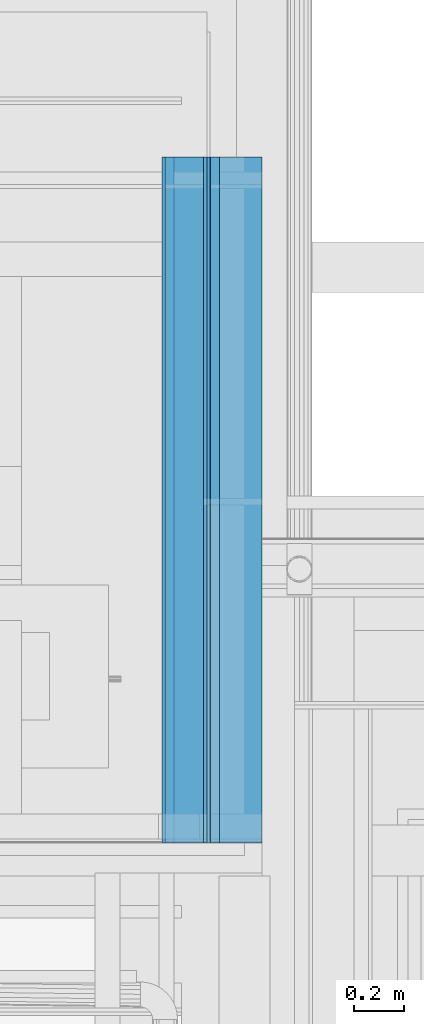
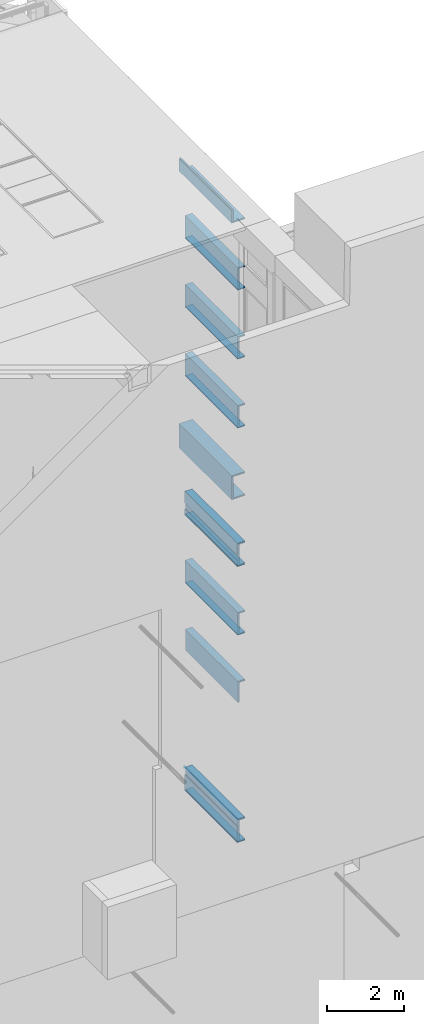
# One storey, part 55 of 583: 59 building element parts, 25 elements without a shape of their own.
"""IFC2X3 building model written with IfcOpenShell, lengths in metres."""

from ifc_helpers import new_model, entity, si_unit, converted_unit, derived_unit, money_unit, direction, frame, frame_2d, origin_with_axes, place, context, subcontext, project, spatial, polyline, rectangle, outline, extrude, material, type_object, element, aggregate, save


model = new_model("IFC2X3")

# Units and contexts
model_context = context("Model", 3, precision=1e-05, world=origin_with_axes(), true_north=direction((0.0, 1.0)))
body_context = subcontext(model_context, "Body", "Model", "MODEL_VIEW", scale=1.0)
ifc_project = project(units=[si_unit("LENGTHUNIT", "METRE"), si_unit("AREAUNIT", "SQUARE_METRE"), si_unit("VOLUMEUNIT", "CUBIC_METRE"), si_unit("ABSORBEDDOSEUNIT", "GRAY"), si_unit("AMOUNTOFSUBSTANCEUNIT", "MOLE"), si_unit("DOSEEQUIVALENTUNIT", "SIEVERT"), si_unit("ELECTRICCAPACITANCEUNIT", "FARAD"), si_unit("ELECTRICCHARGEUNIT", "COULOMB"), si_unit("ELECTRICCONDUCTANCEUNIT", "SIEMENS"), si_unit("ELECTRICCURRENTUNIT", "AMPERE"), si_unit("ELECTRICRESISTANCEUNIT", "OHM"), si_unit("ELECTRICVOLTAGEUNIT", "VOLT"), si_unit("ENERGYUNIT", "JOULE"), si_unit("FORCEUNIT", "NEWTON"), si_unit("FREQUENCYUNIT", "HERTZ"), si_unit("ILLUMINANCEUNIT", "LUX"), si_unit("INDUCTANCEUNIT", "HENRY"), si_unit("LUMINOUSFLUXUNIT", "LUMEN"), si_unit("LUMINOUSINTENSITYUNIT", "CANDELA"), si_unit("MAGNETICFLUXDENSITYUNIT", "TESLA"), si_unit("MAGNETICFLUXUNIT", "WEBER"), si_unit("MASSUNIT", "GRAM"), converted_unit("PLANEANGLEUNIT", "degree", entity("IfcReal", 0.0174532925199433), si_unit("PLANEANGLEUNIT", "RADIAN"), dimensions=[0, 0, 0, 0, 0, 0, 0]), si_unit("POWERUNIT", "WATT"), si_unit("PRESSUREUNIT", "PASCAL"), si_unit("RADIOACTIVITYUNIT", "BECQUEREL"), si_unit("SOLIDANGLEUNIT", "STERADIAN"), si_unit("THERMODYNAMICTEMPERATUREUNIT", "KELVIN"), si_unit("TIMEUNIT", "SECOND"), derived_unit("ACCELERATIONUNIT", [(si_unit("LENGTHUNIT", "METRE"), 1), (si_unit("TIMEUNIT", "SECOND"), -2)]), derived_unit("ANGULARVELOCITYUNIT", [(converted_unit("PLANEANGLEUNIT", "degree", entity("IfcReal", 0.0174532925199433), si_unit("PLANEANGLEUNIT", "RADIAN"), dimensions=[0, 0, 0, 0, 0, 0, 0]), 1), (si_unit("TIMEUNIT", "SECOND"), -1)]), derived_unit("CURVATUREUNIT", [(converted_unit("PLANEANGLEUNIT", "degree", entity("IfcReal", 0.0174532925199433), si_unit("PLANEANGLEUNIT", "RADIAN"), dimensions=[0, 0, 0, 0, 0, 0, 0]), 1), (si_unit("LENGTHUNIT", "METRE"), -1)]), derived_unit("DYNAMICVISCOSITYUNIT", [(si_unit("PRESSUREUNIT", "PASCAL"), 1), (si_unit("TIMEUNIT", "SECOND"), 1)]), derived_unit("HEATFLUXDENSITYUNIT", [(si_unit("POWERUNIT", "WATT"), 1), (si_unit("LENGTHUNIT", "METRE"), -2)]), derived_unit("HEATINGVALUEUNIT", [(si_unit("ENERGYUNIT", "JOULE"), 1), (si_unit("MASSUNIT", "GRAM"), -1)]), derived_unit("INTEGERCOUNTRATEUNIT", [(si_unit("TIMEUNIT", "SECOND"), -1)]), derived_unit("IONCONCENTRATIONUNIT", [(si_unit("MASSUNIT", "GRAM"), 1), (si_unit("VOLUMEUNIT", "CUBIC_METRE"), -1)]), derived_unit("ISOTHERMALMOISTURECAPACITYUNIT", [(si_unit("VOLUMEUNIT", "CUBIC_METRE"), 1), (si_unit("MASSUNIT", "GRAM"), -1)]), derived_unit("KINEMATICVISCOSITYUNIT", [(si_unit("AREAUNIT", "SQUARE_METRE"), 1), (si_unit("TIMEUNIT", "SECOND"), -1)]), derived_unit("LINEARFORCEUNIT", [(si_unit("FORCEUNIT", "NEWTON"), 1), (si_unit("LENGTHUNIT", "METRE"), -1)]), derived_unit("LINEARMOMENTUNIT", [(si_unit("FORCEUNIT", "NEWTON"), 1), (si_unit("LENGTHUNIT", "METRE"), -1)]), derived_unit("LINEARSTIFFNESSUNIT", [(si_unit("FORCEUNIT", "NEWTON"), 1), (si_unit("LENGTHUNIT", "METRE"), -1)]), derived_unit("LINEARVELOCITYUNIT", [(si_unit("LENGTHUNIT", "METRE"), 1), (si_unit("TIMEUNIT", "SECOND"), -1)]), derived_unit("LUMINOUSINTENSITYDISTRIBUTIONUNIT", [(si_unit("LUMINOUSINTENSITYUNIT", "CANDELA"), 1), (si_unit("LUMINOUSFLUXUNIT", "LUMEN"), -1)]), derived_unit("MASSDENSITYUNIT", [(si_unit("MASSUNIT", "GRAM"), 1), (si_unit("VOLUMEUNIT", "CUBIC_METRE"), -1)]), derived_unit("MASSFLOWRATEUNIT", [(si_unit("MASSUNIT", "GRAM"), 1), (si_unit("TIMEUNIT", "SECOND"), -1)]), derived_unit("MASSPERLENGTHUNIT", [(si_unit("MASSUNIT", "GRAM"), 1), (si_unit("LENGTHUNIT", "METRE"), -1)]), derived_unit("MODULUSOFELASTICITYUNIT", [(si_unit("FORCEUNIT", "NEWTON"), 1), (si_unit("AREAUNIT", "SQUARE_METRE"), -1)]), derived_unit("MODULUSOFLINEARSUBGRADEREACTIONUNIT", [(si_unit("FORCEUNIT", "NEWTON"), 1), (si_unit("LENGTHUNIT", "METRE"), -2)]), derived_unit("MODULUSOFROTATIONALSUBGRADEREACTIONUNIT", [(si_unit("FORCEUNIT", "NEWTON"), 1), (si_unit("LENGTHUNIT", "METRE"), 1)]), derived_unit("MODULUSOFSUBGRADEREACTIONUNIT", [(si_unit("FORCEUNIT", "NEWTON"), 1), (si_unit("VOLUMEUNIT", "CUBIC_METRE"), -1)]), derived_unit("MOISTUREDIFFUSIVITYUNIT", [(si_unit("VOLUMEUNIT", "CUBIC_METRE"), 1), (si_unit("TIMEUNIT", "SECOND"), -1)]), derived_unit("MOLECULARWEIGHTUNIT", [(si_unit("MASSUNIT", "GRAM"), 1), (si_unit("AMOUNTOFSUBSTANCEUNIT", "MOLE"), -1)]), derived_unit("PLANARFORCEUNIT", [(si_unit("FORCEUNIT", "NEWTON"), 1), (si_unit("LENGTHUNIT", "METRE"), -2)]), derived_unit("ROTATIONALFREQUENCYUNIT", [(si_unit("TIMEUNIT", "SECOND"), -1)]), derived_unit("ROTATIONALMASSUNIT", [(si_unit("MASSUNIT", "GRAM"), 1), (si_unit("LENGTHUNIT", "METRE"), 2)]), derived_unit("ROTATIONALSTIFFNESSUNIT", [(si_unit("FORCEUNIT", "NEWTON"), 1), (si_unit("LENGTHUNIT", "METRE"), 1), (converted_unit("PLANEANGLEUNIT", "degree", entity("IfcReal", 0.0174532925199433), si_unit("PLANEANGLEUNIT", "RADIAN"), dimensions=[0, 0, 0, 0, 0, 0, 0]), -1)]), derived_unit("SECTIONAREAINTEGRALUNIT", [(si_unit("LENGTHUNIT", "METRE"), 5)]), derived_unit("SECTIONMODULUSUNIT", [(si_unit("LENGTHUNIT", "METRE"), 3)]), derived_unit("SHEARMODULUSUNIT", [(si_unit("FORCEUNIT", "NEWTON"), 1), (si_unit("AREAUNIT", "SQUARE_METRE"), -1)]), derived_unit("SOUNDPOWERUNIT", [(si_unit("ENERGYUNIT", "JOULE"), 1), (si_unit("TIMEUNIT", "SECOND"), -1)]), derived_unit("SPECIFICHEATCAPACITYUNIT", [(si_unit("FORCEUNIT", "NEWTON"), 1), (si_unit("MASSUNIT", "GRAM"), -1), (si_unit("THERMODYNAMICTEMPERATUREUNIT", "KELVIN"), -1)]), derived_unit("TEMPERATUREGRADIENTUNIT", [(si_unit("THERMODYNAMICTEMPERATUREUNIT", "KELVIN"), 1), (si_unit("LENGTHUNIT", "METRE"), -1)]), derived_unit("THERMALADMITTANCEUNIT", [(si_unit("POWERUNIT", "WATT"), 1), (si_unit("AREAUNIT", "SQUARE_METRE"), -1), (si_unit("THERMODYNAMICTEMPERATUREUNIT", "KELVIN"), -1)]), derived_unit("THERMALCONDUCTANCEUNIT", [(si_unit("POWERUNIT", "WATT"), 1), (si_unit("LENGTHUNIT", "METRE"), -1), (si_unit("THERMODYNAMICTEMPERATUREUNIT", "KELVIN"), -1)]), derived_unit("THERMALEXPANSIONCOEFFICIENTUNIT", [(si_unit("THERMODYNAMICTEMPERATUREUNIT", "KELVIN"), -1)]), derived_unit("THERMALRESISTANCEUNIT", [(si_unit("AREAUNIT", "SQUARE_METRE"), 1), (si_unit("POWERUNIT", "WATT"), -1)]), derived_unit("THERMALTRANSMITTANCEUNIT", [(si_unit("POWERUNIT", "WATT"), 1), (si_unit("AREAUNIT", "SQUARE_METRE"), -1), (si_unit("THERMODYNAMICTEMPERATUREUNIT", "KELVIN"), -1)]), derived_unit("TORQUEUNIT", [(si_unit("FORCEUNIT", "NEWTON"), 1), (si_unit("LENGTHUNIT", "METRE"), 1)]), derived_unit("VAPORPERMEABILITYUNIT", [(si_unit("MASSUNIT", "GRAM"), 1), (si_unit("TIMEUNIT", "SECOND"), -1)]), derived_unit("VOLUMETRICFLOWRATEUNIT", [(si_unit("VOLUMEUNIT", "CUBIC_METRE"), 1), (si_unit("TIMEUNIT", "SECOND"), -1)]), derived_unit("WARPINGCONSTANTUNIT", [(si_unit("LENGTHUNIT", "METRE"), 6)]), derived_unit("WARPINGMOMENTUNIT", [(si_unit("FORCEUNIT", "NEWTON"), 1), (si_unit("LENGTHUNIT", "METRE"), 2)]), money_unit("GBP")], contexts=[model_context])

# Site, building, storey
site_placement = place(None, origin_with_axes())
site = spatial("IfcSite", under=ifc_project, at=site_placement, Name="Site", CompositionType="ELEMENT")
building_placement = place(site_placement, origin_with_axes())
building = spatial("IfcBuilding", under=site, at=building_placement, Name="Building01", CompositionType="ELEMENT")
storey_placement = place(building_placement, frame((0.0, 0.0, 20.78), z_axis=(0.0, 0.0, 1.0), x_axis=(1.0, 0.0, 0.0)))
storey = spatial("IfcBuildingStorey", under=building, at=storey_placement, Name="RL", CompositionType="ELEMENT", Elevation=20.78)

# Wall, building element parts
wall_type_1 = type_object("IfcWallType", Name="SHE_A-Walls_Type06f_ExternalWallInsulation_48+15mm", PredefinedType="NOTDEFINED")
wall_1_placement = place(storey_placement, frame((14.8, 5.15, -4.755), z_axis=(0.0, 1.0, 0.0), x_axis=(-1.0, 0.0, 0.0)))
wall_1 = element("IfcWall", 1, at=wall_1_placement, inside=storey, type_object=wall_type_1, Name="6F", ObjectType="SHE_A-Walls_Type06f_ExternalWallInsulation_48+15mm")
ifc_material_1 = material(Name="A_BSUK_Insulation")
placement_1 = place(wall_1_placement, origin_with_axes())
building_element_part_1 = element("IfcBuildingElementPart", 2, at=placement_1, material=ifc_material_1, Name="1", context=body_context, shape_type="SweptSolid", body=[
    extrude(outline(polyline([(0.206, 0.018), (0.0, 0.018), (0.0, -0.018), (0.17, -0.018), (0.206, 0.018)])), origin_with_axes(), (0.0, 0.0, 1.0), 2.74),
])
ifc_material_2 = material(Name="A_BSUK_WallInternal_Finishes_Plasterboard")
building_element_part_2 = element("IfcBuildingElementPart", 3, at=placement_1, material=ifc_material_2, Name="3", context=body_context, shape_type="SweptSolid", body=[
    extrude(outline(polyline([(0.233, 0.045), (0.0, 0.045), (0.0, 0.03), (0.218, 0.03), (0.233, 0.045)])), origin_with_axes(), (0.0, 0.0, 1.0), 2.74),
])
building_element_part_3 = element("IfcBuildingElementPart", 4, at=placement_1, material=ifc_material_2, Name="4", context=body_context, shape_type="SweptSolid", body=[
    extrude(outline(polyline([(0.218, 0.03), (0.0, 0.03), (0.0, 0.018), (0.206, 0.018), (0.218, 0.03)])), origin_with_axes(), (0.0, 0.0, 1.0), 2.74),
])
aggregate(wall_1, [building_element_part_1, building_element_part_2, building_element_part_3])

wall_2_placement = place(storey_placement, frame((14.612, 5.15, -5.415), z_axis=(0.0, 1.0, 0.0), x_axis=(1.0, 0.0, 0.0)))
wall_2 = element("IfcWall", 5, at=wall_2_placement, inside=storey, type_object=wall_type_1, Name="6F", ObjectType="SHE_A-Walls_Type06f_ExternalWallInsulation_48+15mm")
placement_2 = place(wall_2_placement, origin_with_axes())
building_element_part_4 = element("IfcBuildingElementPart", 6, at=placement_2, material=ifc_material_1, Name="1", context=body_context, shape_type="SweptSolid", body=[
    extrude(outline(polyline([(-0.018, 0.018), (0.018, -0.018), (0.188, -0.018), (0.188, 0.018), (-0.018, 0.018)])), origin_with_axes(), (0.0, 0.0, 1.0), 2.74),
])
building_element_part_5 = element("IfcBuildingElementPart", 7, at=placement_2, material=ifc_material_2, Name="3", context=body_context, shape_type="SweptSolid", body=[
    extrude(outline(polyline([(-0.045, 0.045), (-0.03, 0.03), (0.188, 0.03), (0.188, 0.045), (-0.045, 0.045)])), origin_with_axes(), (0.0, 0.0, 1.0), 2.74),
])
building_element_part_6 = element("IfcBuildingElementPart", 8, at=placement_2, material=ifc_material_2, Name="4", context=body_context, shape_type="SweptSolid", body=[
    extrude(outline(polyline([(-0.03, 0.03), (-0.018, 0.018), (0.188, 0.018), (0.188, 0.03), (-0.03, 0.03)])), origin_with_axes(), (0.0, 0.0, 1.0), 2.74),
])
aggregate(wall_2, [building_element_part_4, building_element_part_5, building_element_part_6])

wall_3_placement = place(storey_placement, frame((14.612, 5.15, -4.755), z_axis=(0.0, 1.0, 0.0), x_axis=(0.0, 0.0, -1.0)))
wall_3 = element("IfcWall", 9, at=wall_3_placement, inside=storey, type_object=wall_type_1, Name="6F", ObjectType="SHE_A-Walls_Type06f_ExternalWallInsulation_48+15mm")
placement_3 = place(wall_3_placement, origin_with_axes())
building_element_part_7 = element("IfcBuildingElementPart", 10, at=placement_3, material=ifc_material_1, Name="1", context=body_context, shape_type="SweptSolid", body=[
    extrude(outline(polyline([(0.678, 0.018), (-0.018, 0.018), (0.018, -0.018), (0.642, -0.018), (0.678, 0.018)])), origin_with_axes(), (0.0, 0.0, 1.0), 2.74),
])
building_element_part_8 = element("IfcBuildingElementPart", 11, at=placement_3, material=ifc_material_2, Name="3", context=body_context, shape_type="SweptSolid", body=[
    extrude(outline(polyline([(-0.045, 0.045), (-0.03, 0.03), (0.331868, 0.03), (0.331868, 0.045), (-0.045, 0.045)])), origin_with_axes(), (0.0, 0.0, 1.0), 2.74),
])
building_element_part_9 = element("IfcBuildingElementPart", 12, at=placement_3, material=ifc_material_2, Name="5", context=body_context, shape_type="SweptSolid", body=[
    extrude(outline(polyline([(0.705, 0.045), (0.526868, 0.045), (0.526868, 0.03), (0.69, 0.03), (0.705, 0.045)])), origin_with_axes(), (0.0, 0.0, 1.0), 2.74),
])
building_element_part_10 = element("IfcBuildingElementPart", 13, at=placement_3, material=ifc_material_2, Name="6", context=body_context, shape_type="SweptSolid", body=[
    extrude(outline(polyline([(-0.03, 0.03), (-0.018, 0.018), (0.346868, 0.018), (0.346868, 0.03), (-0.03, 0.03)])), origin_with_axes(), (0.0, 0.0, 1.0), 2.74),
])
building_element_part_11 = element("IfcBuildingElementPart", 14, at=placement_3, material=ifc_material_2, Name="7", context=body_context, shape_type="SweptSolid", body=[
    extrude(outline(polyline([(0.69, 0.03), (0.511868, 0.03), (0.511868, 0.018), (0.678, 0.018), (0.69, 0.03)])), origin_with_axes(), (0.0, 0.0, 1.0), 2.74),
])
aggregate(wall_3, [building_element_part_7, building_element_part_8, building_element_part_9, building_element_part_10, building_element_part_11])

wall_4_placement = place(storey_placement, frame((14.8, 5.15, -13.515), z_axis=(0.0, 1.0, 0.0), x_axis=(-1.0, 0.0, 0.0)))
wall_4 = element("IfcWall", 15, at=wall_4_placement, inside=storey, type_object=wall_type_1, Name="6F", ObjectType="SHE_A-Walls_Type06f_ExternalWallInsulation_48+15mm")
placement_4 = place(wall_4_placement, origin_with_axes())
building_element_part_12 = element("IfcBuildingElementPart", 16, at=placement_4, material=ifc_material_1, Name="1", context=body_context, shape_type="SweptSolid", body=[
    extrude(rectangle(XDim=0.17, YDim=0.036, at=frame_2d((0.085, 0.0), x_axis=(-1.0, 0.0))), origin_with_axes(), (0.0, 0.0, 1.0), 2.74),
])
building_element_part_13 = element("IfcBuildingElementPart", 17, at=placement_4, material=ifc_material_2, Name="3", context=body_context, shape_type="SweptSolid", body=[
    extrude(outline(polyline([(0.233, 0.045), (0.0, 0.045), (0.0, 0.03), (0.218, 0.03), (0.233, 0.045)])), origin_with_axes(), (0.0, 0.0, 1.0), 2.74),
])
building_element_part_14 = element("IfcBuildingElementPart", 18, at=placement_4, material=ifc_material_2, Name="4", context=body_context, shape_type="SweptSolid", body=[
    extrude(rectangle(XDim=0.206, YDim=0.012, at=frame_2d((0.103, 0.024), x_axis=(-1.0, 0.0))), origin_with_axes(), (0.0, 0.0, 1.0), 2.74),
])
aggregate(wall_4, [building_element_part_12, building_element_part_13, building_element_part_14])

wall_5_placement = place(storey_placement, frame((14.612, 5.15, -14.175), z_axis=(0.0, 1.0, 0.0), x_axis=(1.0, 0.0, 0.0)))
wall_5 = element("IfcWall", 19, at=wall_5_placement, inside=storey, type_object=wall_type_1, Name="6F", ObjectType="SHE_A-Walls_Type06f_ExternalWallInsulation_48+15mm")
placement_5 = place(wall_5_placement, origin_with_axes())
building_element_part_15 = element("IfcBuildingElementPart", 20, at=placement_5, material=ifc_material_1, Name="1", context=body_context, shape_type="SweptSolid", body=[
    extrude(outline(polyline([(-0.018, 0.018), (0.018, -0.018), (0.188, -0.018), (0.188, 0.018), (-0.018, 0.018)])), origin_with_axes(), (0.0, 0.0, 1.0), 2.74),
])
building_element_part_16 = element("IfcBuildingElementPart", 21, at=placement_5, material=ifc_material_2, Name="3", context=body_context, shape_type="SweptSolid", body=[
    extrude(outline(polyline([(-0.045, 0.045), (-0.03, 0.03), (0.188, 0.03), (0.188, 0.045), (-0.045, 0.045)])), origin_with_axes(), (0.0, 0.0, 1.0), 2.74),
])
building_element_part_17 = element("IfcBuildingElementPart", 22, at=placement_5, material=ifc_material_2, Name="4", context=body_context, shape_type="SweptSolid", body=[
    extrude(outline(polyline([(-0.03, 0.03), (-0.018, 0.018), (0.188, 0.018), (0.188, 0.03), (-0.03, 0.03)])), origin_with_axes(), (0.0, 0.0, 1.0), 2.74),
])
aggregate(wall_5, [building_element_part_15, building_element_part_16, building_element_part_17])

wall_6_placement = place(storey_placement, frame((14.612, 5.15, -13.497), z_axis=(0.0, 1.0, 0.0), x_axis=(0.0, 0.0, -1.0)))
wall_6 = element("IfcWall", 23, at=wall_6_placement, inside=storey, type_object=wall_type_1, Name="6F", ObjectType="SHE_A-Walls_Type06f_ExternalWallInsulation_48+15mm")
placement_6 = place(wall_6_placement, origin_with_axes())
building_element_part_18 = element("IfcBuildingElementPart", 24, at=placement_6, material=ifc_material_1, Name="1", context=body_context, shape_type="SweptSolid", body=[
    extrude(outline(polyline([(0.696, 0.018), (0.0, 0.018), (0.0, -0.018), (0.66, -0.018), (0.696, 0.018)])), origin_with_axes(), (0.0, 0.0, 1.0), 2.74),
])
building_element_part_19 = element("IfcBuildingElementPart", 25, at=placement_6, material=ifc_material_2, Name="3", context=body_context, shape_type="SweptSolid", body=[
    extrude(outline(polyline([(-0.006669, 0.045), (-0.027, 0.045), (-0.012, 0.03), (-0.006669, 0.03), (-0.006669, 0.045)])), origin_with_axes(), (0.0, 0.0, 1.0), 2.74),
])
building_element_part_20 = element("IfcBuildingElementPart", 26, at=placement_6, material=ifc_material_2, Name="5", context=body_context, shape_type="SweptSolid", body=[
    extrude(outline(polyline([(0.723, 0.045), (0.218331, 0.045), (0.218331, 0.03), (0.708, 0.03), (0.723, 0.045)])), origin_with_axes(), (0.0, 0.0, 1.0), 2.74),
])
building_element_part_21 = element("IfcBuildingElementPart", 27, at=placement_6, material=ifc_material_2, Name="6", context=body_context, shape_type="SweptSolid", body=[
    extrude(outline(polyline([(0.708, 0.03), (0.203331, 0.03), (0.203331, 0.018), (0.696, 0.018), (0.708, 0.03)])), origin_with_axes(), (0.0, 0.0, 1.0), 2.74),
])
building_element_part_22 = element("IfcBuildingElementPart", 28, at=placement_6, material=ifc_material_2, Name="7", context=body_context, shape_type="SweptSolid", body=[
    extrude(rectangle(XDim=0.020331, YDim=0.012, at=frame_2d((-0.001834, 0.024), x_axis=(-1.0, 0.0))), origin_with_axes(), (0.0, 0.0, 1.0), 2.74),
])
aggregate(wall_6, [building_element_part_18, building_element_part_19, building_element_part_20, building_element_part_21, building_element_part_22])

wall_type_2 = type_object("IfcWallType", Name="SHE_A-Walls_Type06d_ExternalWallInsulation_48mm", PredefinedType="NOTDEFINED")
wall_7_placement = place(storey_placement, frame((14.45, 5.15, 5.93), z_axis=(0.0, 1.0, 0.0), x_axis=(0.0, 0.0, -1.0)))
wall_7 = element("IfcWall", 29, at=wall_7_placement, inside=storey, type_object=wall_type_2, Name="6D", ObjectType="SHE_A-Walls_Type06d_ExternalWallInsulation_48mm")
placement_7 = place(wall_7_placement, origin_with_axes())
building_element_part_23 = element("IfcBuildingElementPart", 30, at=placement_7, material=ifc_material_1, Name="1", context=body_context, shape_type="SweptSolid", body=[
    extrude(rectangle(XDim=0.413, YDim=0.036, at=frame_2d((0.2065, 0.018), x_axis=(-1.0, 0.0))), origin_with_axes(), (0.0, 0.0, 1.0), 2.74),
])
building_element_part_24 = element("IfcBuildingElementPart", 31, at=placement_7, material=ifc_material_2, Name="3", context=body_context, shape_type="SweptSolid", body=[
    extrude(outline(polyline([(0.425, 0.048), (0.035, 0.048), (0.035, 0.035), (0.412, 0.035), (0.425, 0.048)])), origin_with_axes(), (0.0, 0.0, 1.0), 2.74),
])
aggregate(wall_7, [building_element_part_23, building_element_part_24])

wall_8_placement = place(storey_placement, frame((14.45, 5.15, 5.553), z_axis=(0.0, 1.0, 0.0), x_axis=(1.0, 0.0, 0.0)))
wall_8 = element("IfcWall", 32, at=wall_8_placement, inside=storey, type_object=wall_type_2, Name="6D", ObjectType="SHE_A-Walls_Type06d_ExternalWallInsulation_48mm")
placement_8 = place(wall_8_placement, origin_with_axes())
building_element_part_25 = element("IfcBuildingElementPart", 33, at=placement_8, material=ifc_material_1, Name="1", context=body_context, shape_type="SweptSolid", body=[
    extrude(rectangle(XDim=0.35, YDim=0.036, at=frame_2d((0.175, 0.018), x_axis=(-1.0, 0.0))), origin_with_axes(), (0.0, 0.0, 1.0), 2.74),
])
building_element_part_26 = element("IfcBuildingElementPart", 34, at=placement_8, material=ifc_material_2, Name="3", context=body_context, shape_type="SweptSolid", body=[
    extrude(outline(polyline([(0.35, 0.048), (-0.048, 0.048), (-0.035, 0.035), (0.35, 0.035), (0.35, 0.048)])), origin_with_axes(), (0.0, 0.0, 1.0), 2.74),
])
aggregate(wall_8, [building_element_part_25, building_element_part_26])

wall_9_placement = place(storey_placement, frame((14.8, 5.15, 3.987), z_axis=(0.0, 1.0, 0.0), x_axis=(-1.0, 0.0, 0.0)))
wall_9 = element("IfcWall", 35, at=wall_9_placement, inside=storey, type_object=wall_type_2, Name="6D", ObjectType="SHE_A-Walls_Type06d_ExternalWallInsulation_48mm")
placement_9 = place(wall_9_placement, origin_with_axes())
building_element_part_27 = element("IfcBuildingElementPart", 36, at=placement_9, material=ifc_material_1, Name="1", context=body_context, shape_type="SweptSolid", body=[
    extrude(rectangle(XDim=0.206, YDim=0.036, at=frame_2d((0.103, 0.018), x_axis=(-1.0, 0.0))), origin_with_axes(), (0.0, 0.0, 1.0), 2.74),
])
building_element_part_28 = element("IfcBuildingElementPart", 37, at=placement_9, material=ifc_material_2, Name="3", context=body_context, shape_type="SweptSolid", body=[
    extrude(outline(polyline([(0.218, 0.048), (0.0, 0.048), (0.0, 0.035), (0.205, 0.035), (0.218, 0.048)])), origin_with_axes(), (0.0, 0.0, 1.0), 2.74),
])
aggregate(wall_9, [building_element_part_27, building_element_part_28])

wall_10_placement = place(storey_placement, frame((14.63, 5.15, 3.987), z_axis=(0.0, 1.0, 0.0), x_axis=(0.0, 0.0, -1.0)))
wall_10 = element("IfcWall", 38, at=wall_10_placement, inside=storey, type_object=wall_type_2, Name="6D", ObjectType="SHE_A-Walls_Type06d_ExternalWallInsulation_48mm")
placement_10 = place(wall_10_placement, origin_with_axes())
building_element_part_29 = element("IfcBuildingElementPart", 39, at=placement_10, material=ifc_material_1, Name="1", context=body_context, shape_type="SweptSolid", body=[
    extrude(rectangle(XDim=0.624, YDim=0.036, at=frame_2d((0.312, 0.018), x_axis=(-1.0, 0.0))), origin_with_axes(), (0.0, 0.0, 1.0), 2.74),
])
building_element_part_30 = element("IfcBuildingElementPart", 40, at=placement_10, material=ifc_material_2, Name="3", context=body_context, shape_type="SweptSolid", body=[
    extrude(outline(polyline([(0.672, 0.048), (-0.048, 0.048), (-0.035, 0.035), (0.659, 0.035), (0.672, 0.048)])), origin_with_axes(), (0.0, 0.0, 1.0), 2.74),
])
aggregate(wall_10, [building_element_part_29, building_element_part_30])

wall_11_placement = place(storey_placement, frame((14.594, 5.15, 3.363), z_axis=(0.0, 1.0, 0.0), x_axis=(1.0, 0.0, 0.0)))
wall_11 = element("IfcWall", 41, at=wall_11_placement, inside=storey, type_object=wall_type_2, Name="6D", ObjectType="SHE_A-Walls_Type06d_ExternalWallInsulation_48mm")
placement_11 = place(wall_11_placement, origin_with_axes())
building_element_part_31 = element("IfcBuildingElementPart", 42, at=placement_11, material=ifc_material_1, Name="1", context=body_context, shape_type="SweptSolid", body=[
    extrude(rectangle(XDim=0.036, YDim=0.206, at=frame_2d((0.103, 0.018), x_axis=(0.0, -1.0))), origin_with_axes(), (0.0, 0.0, 1.0), 2.74),
])
building_element_part_32 = element("IfcBuildingElementPart", 43, at=placement_11, material=ifc_material_2, Name="3", context=body_context, shape_type="SweptSolid", body=[
    extrude(outline(polyline([(-0.012, 0.048), (0.001, 0.035), (0.206, 0.035), (0.206, 0.048), (-0.012, 0.048)])), origin_with_axes(), (0.0, 0.0, 1.0), 2.74),
])
aggregate(wall_11, [building_element_part_31, building_element_part_32])

wall_12_placement = place(storey_placement, frame((14.8, 5.15, 1.797), z_axis=(0.0, 1.0, 0.0), x_axis=(-1.0, 0.0, 0.0)))
wall_12 = element("IfcWall", 44, at=wall_12_placement, inside=storey, type_object=wall_type_2, Name="6D", ObjectType="SHE_A-Walls_Type06d_ExternalWallInsulation_48mm")
placement_12 = place(wall_12_placement, origin_with_axes())
building_element_part_33 = element("IfcBuildingElementPart", 45, at=placement_12, material=ifc_material_1, Name="1", context=body_context, shape_type="SweptSolid", body=[
    extrude(rectangle(XDim=0.17, YDim=0.036, at=frame_2d((0.085, 0.018), x_axis=(-1.0, 0.0))), origin_with_axes(), (0.0, 0.0, 1.0), 2.74),
])
building_element_part_34 = element("IfcBuildingElementPart", 46, at=placement_12, material=ifc_material_2, Name="3", context=body_context, shape_type="SweptSolid", body=[
    extrude(outline(polyline([(0.218, 0.048), (0.0, 0.048), (0.0, 0.035), (0.205, 0.035), (0.218, 0.048)])), origin_with_axes(), (0.0, 0.0, 1.0), 2.74),
])
aggregate(wall_12, [building_element_part_33, building_element_part_34])

wall_13_placement = place(storey_placement, frame((14.63, 5.15, 1.833), z_axis=(0.0, 1.0, 0.0), x_axis=(0.0, 0.0, -1.0)))
wall_13 = element("IfcWall", 47, at=wall_13_placement, inside=storey, type_object=wall_type_2, Name="6D", ObjectType="SHE_A-Walls_Type06d_ExternalWallInsulation_48mm")
placement_13 = place(wall_13_placement, origin_with_axes())
building_element_part_35 = element("IfcBuildingElementPart", 48, at=placement_13, material=ifc_material_1, Name="1", context=body_context, shape_type="SweptSolid", body=[
    extrude(rectangle(XDim=0.696, YDim=0.036, at=frame_2d((0.348, 0.018), x_axis=(-1.0, 0.0))), origin_with_axes(), (0.0, 0.0, 1.0), 2.74),
])
building_element_part_36 = element("IfcBuildingElementPart", 49, at=placement_13, material=ifc_material_2, Name="3", context=body_context, shape_type="SweptSolid", body=[
    extrude(outline(polyline([(0.708, 0.048), (-0.012, 0.048), (0.001, 0.035), (0.695, 0.035), (0.708, 0.048)])), origin_with_axes(), (0.0, 0.0, 1.0), 2.74),
])
aggregate(wall_13, [building_element_part_35, building_element_part_36])

wall_14_placement = place(storey_placement, frame((14.63, 5.15, 1.173), z_axis=(0.0, 1.0, 0.0), x_axis=(1.0, 0.0, 0.0)))
wall_14 = element("IfcWall", 50, at=wall_14_placement, inside=storey, type_object=wall_type_2, Name="6D", ObjectType="SHE_A-Walls_Type06d_ExternalWallInsulation_48mm")
placement_14 = place(wall_14_placement, origin_with_axes())
building_element_part_37 = element("IfcBuildingElementPart", 51, at=placement_14, material=ifc_material_1, Name="1", context=body_context, shape_type="SweptSolid", body=[
    extrude(rectangle(XDim=0.036, YDim=0.17, at=frame_2d((0.085, 0.018), x_axis=(0.0, -1.0))), origin_with_axes(), (0.0, 0.0, 1.0), 2.74),
])
building_element_part_38 = element("IfcBuildingElementPart", 52, at=placement_14, material=ifc_material_2, Name="3", context=body_context, shape_type="SweptSolid", body=[
    extrude(outline(polyline([(-0.048, 0.048), (-0.035, 0.035), (0.17, 0.035), (0.17, 0.048), (-0.048, 0.048)])), origin_with_axes(), (0.0, 0.0, 1.0), 2.74),
])
aggregate(wall_14, [building_element_part_37, building_element_part_38])

wall_15_placement = place(storey_placement, frame((14.8, 5.15, -0.393), z_axis=(0.0, 1.0, 0.0), x_axis=(-1.0, 0.0, 0.0)))
wall_15 = element("IfcWall", 53, at=wall_15_placement, inside=storey, type_object=wall_type_2, Name="6D", ObjectType="SHE_A-Walls_Type06d_ExternalWallInsulation_48mm")
placement_15 = place(wall_15_placement, origin_with_axes())
building_element_part_39 = element("IfcBuildingElementPart", 54, at=placement_15, material=ifc_material_1, Name="1", context=body_context, shape_type="SweptSolid", body=[
    extrude(rectangle(XDim=0.17, YDim=0.036, at=frame_2d((0.085, 0.018), x_axis=(-1.0, 0.0))), origin_with_axes(), (0.0, 0.0, 1.0), 2.74),
])
building_element_part_40 = element("IfcBuildingElementPart", 55, at=placement_15, material=ifc_material_2, Name="3", context=body_context, shape_type="SweptSolid", body=[
    extrude(outline(polyline([(0.218, 0.048), (0.0, 0.048), (0.0, 0.035), (0.205, 0.035), (0.218, 0.048)])), origin_with_axes(), (0.0, 0.0, 1.0), 2.74),
])
aggregate(wall_15, [building_element_part_39, building_element_part_40])

wall_16_placement = place(storey_placement, frame((14.63, 5.15, -0.357), z_axis=(0.0, 1.0, 0.0), x_axis=(0.0, 0.0, -1.0)))
wall_16 = element("IfcWall", 56, at=wall_16_placement, inside=storey, type_object=wall_type_2, Name="6D", ObjectType="SHE_A-Walls_Type06d_ExternalWallInsulation_48mm")
placement_16 = place(wall_16_placement, origin_with_axes())
building_element_part_41 = element("IfcBuildingElementPart", 57, at=placement_16, material=ifc_material_1, Name="1", context=body_context, shape_type="SweptSolid", body=[
    extrude(rectangle(XDim=0.696, YDim=0.036, at=frame_2d((0.348, 0.018), x_axis=(-1.0, 0.0))), origin_with_axes(), (0.0, 0.0, 1.0), 2.74),
])
building_element_part_42 = element("IfcBuildingElementPart", 58, at=placement_16, material=ifc_material_2, Name="3", context=body_context, shape_type="SweptSolid", body=[
    extrude(outline(polyline([(0.708, 0.048), (-0.012, 0.048), (0.001, 0.035), (0.695, 0.035), (0.708, 0.048)])), origin_with_axes(), (0.0, 0.0, 1.0), 2.74),
])
aggregate(wall_16, [building_element_part_41, building_element_part_42])

wall_17_placement = place(storey_placement, frame((14.63, 5.15, -1.017), z_axis=(0.0, 1.0, 0.0), x_axis=(1.0, 0.0, 0.0)))
wall_17 = element("IfcWall", 59, at=wall_17_placement, inside=storey, type_object=wall_type_2, Name="6D", ObjectType="SHE_A-Walls_Type06d_ExternalWallInsulation_48mm")
placement_17 = place(wall_17_placement, origin_with_axes())
building_element_part_43 = element("IfcBuildingElementPart", 60, at=placement_17, material=ifc_material_1, Name="1", context=body_context, shape_type="SweptSolid", body=[
    extrude(rectangle(XDim=0.036, YDim=0.17, at=frame_2d((0.085, 0.018), x_axis=(0.0, -1.0))), origin_with_axes(), (0.0, 0.0, 1.0), 2.74),
])
building_element_part_44 = element("IfcBuildingElementPart", 61, at=placement_17, material=ifc_material_2, Name="3", context=body_context, shape_type="SweptSolid", body=[
    extrude(outline(polyline([(-0.048, 0.048), (-0.035, 0.035), (0.17, 0.035), (0.17, 0.048), (-0.048, 0.048)])), origin_with_axes(), (0.0, 0.0, 1.0), 2.74),
])
aggregate(wall_17, [building_element_part_43, building_element_part_44])

wall_18_placement = place(storey_placement, frame((14.8, 5.15, -2.56), z_axis=(0.0, 1.0, 0.0), x_axis=(-1.0, 0.0, 0.0)))
wall_18 = element("IfcWall", 62, at=wall_18_placement, inside=storey, type_object=wall_type_2, Name="6D", ObjectType="SHE_A-Walls_Type06d_ExternalWallInsulation_48mm")
placement_18 = place(wall_18_placement, origin_with_axes())
building_element_part_45 = element("IfcBuildingElementPart", 63, at=placement_18, material=ifc_material_1, Name="1", context=body_context, shape_type="SweptSolid", body=[
    extrude(rectangle(XDim=0.386, YDim=0.036, at=frame_2d((0.193, 0.018), x_axis=(-1.0, 0.0))), origin_with_axes(), (0.0, 0.0, 1.0), 2.74),
])
building_element_part_46 = element("IfcBuildingElementPart", 64, at=placement_18, material=ifc_material_2, Name="3", context=body_context, shape_type="SweptSolid", body=[
    extrude(outline(polyline([(0.398, 0.048), (0.0, 0.048), (0.0, 0.035), (0.385, 0.035), (0.398, 0.048)])), origin_with_axes(), (0.0, 0.0, 1.0), 2.74),
])
aggregate(wall_18, [building_element_part_45, building_element_part_46])

wall_19_placement = place(storey_placement, frame((14.45, 5.15, -2.56), z_axis=(0.0, 1.0, 0.0), x_axis=(0.0, 0.0, -1.0)))
wall_19 = element("IfcWall", 65, at=wall_19_placement, inside=storey, type_object=wall_type_2, Name="6D", ObjectType="SHE_A-Walls_Type06d_ExternalWallInsulation_48mm")
placement_19 = place(wall_19_placement, origin_with_axes())
building_element_part_47 = element("IfcBuildingElementPart", 66, at=placement_19, material=ifc_material_1, Name="1", context=body_context, shape_type="SweptSolid", body=[
    extrude(rectangle(XDim=0.706, YDim=0.036, at=frame_2d((0.353, 0.018), x_axis=(-1.0, 0.0))), origin_with_axes(), (0.0, 0.0, 1.0), 2.74),
])
building_element_part_48 = element("IfcBuildingElementPart", 67, at=placement_19, material=ifc_material_2, Name="3", context=body_context, shape_type="SweptSolid", body=[
    extrude(outline(polyline([(0.718, 0.048), (-0.048, 0.048), (-0.035, 0.035), (0.705, 0.035), (0.718, 0.048)])), origin_with_axes(), (0.0, 0.0, 1.0), 2.74),
])
aggregate(wall_19, [building_element_part_47, building_element_part_48])

wall_20_placement = place(storey_placement, frame((14.45, 5.15, -3.23), z_axis=(0.0, 1.0, 0.0), x_axis=(1.0, 0.0, 0.0)))
wall_20 = element("IfcWall", 68, at=wall_20_placement, inside=storey, type_object=wall_type_2, Name="6D", ObjectType="SHE_A-Walls_Type06d_ExternalWallInsulation_48mm")
placement_20 = place(wall_20_placement, origin_with_axes())
building_element_part_49 = element("IfcBuildingElementPart", 69, at=placement_20, material=ifc_material_1, Name="1", context=body_context, shape_type="SweptSolid", body=[
    extrude(rectangle(XDim=0.036, YDim=0.35, at=frame_2d((0.175, 0.018), x_axis=(0.0, -1.0))), origin_with_axes(), (0.0, 0.0, 1.0), 2.74),
])
building_element_part_50 = element("IfcBuildingElementPart", 70, at=placement_20, material=ifc_material_2, Name="3", context=body_context, shape_type="SweptSolid", body=[
    extrude(outline(polyline([(-0.048, 0.048), (-0.035, 0.035), (0.35, 0.035), (0.35, 0.048), (-0.048, 0.048)])), origin_with_axes(), (0.0, 0.0, 1.0), 2.74),
])
aggregate(wall_20, [building_element_part_49, building_element_part_50])

wall_21_placement = place(storey_placement, frame((14.8, 5.15, -6.963), z_axis=(0.0, 1.0, 0.0), x_axis=(-1.0, 0.0, 0.0)))
wall_21 = element("IfcWall", 71, at=wall_21_placement, inside=storey, type_object=wall_type_2, Name="6D", ObjectType="SHE_A-Walls_Type06d_ExternalWallInsulation_48mm")
placement_21 = place(wall_21_placement, origin_with_axes())
building_element_part_51 = element("IfcBuildingElementPart", 72, at=placement_21, material=ifc_material_1, Name="1", context=body_context, shape_type="SweptSolid", body=[
    extrude(rectangle(XDim=0.17, YDim=0.036, at=frame_2d((0.085, 0.018), x_axis=(-1.0, 0.0))), origin_with_axes(), (0.0, 0.0, 1.0), 2.74),
])
building_element_part_52 = element("IfcBuildingElementPart", 73, at=placement_21, material=ifc_material_2, Name="3", context=body_context, shape_type="SweptSolid", body=[
    extrude(outline(polyline([(0.218, 0.048), (0.0, 0.048), (0.0, 0.035), (0.205, 0.035), (0.218, 0.048)])), origin_with_axes(), (0.0, 0.0, 1.0), 2.74),
])
aggregate(wall_21, [building_element_part_51, building_element_part_52])

wall_22_placement = place(storey_placement, frame((14.63, 5.15, -6.927), z_axis=(0.0, 1.0, 0.0), x_axis=(0.0, 0.0, -1.0)))
wall_22 = element("IfcWall", 74, at=wall_22_placement, inside=storey, type_object=wall_type_2, Name="6D", ObjectType="SHE_A-Walls_Type06d_ExternalWallInsulation_48mm")
placement_22 = place(wall_22_placement, origin_with_axes())
building_element_part_53 = element("IfcBuildingElementPart", 75, at=placement_22, material=ifc_material_1, Name="1", context=body_context, shape_type="SweptSolid", body=[
    extrude(rectangle(XDim=0.696, YDim=0.036, at=frame_2d((0.348, 0.018), x_axis=(-1.0, 0.0))), origin_with_axes(), (0.0, 0.0, 1.0), 2.74),
])
building_element_part_54 = element("IfcBuildingElementPart", 76, at=placement_22, material=ifc_material_2, Name="3", context=body_context, shape_type="SweptSolid", body=[
    extrude(outline(polyline([(0.708, 0.048), (-0.012, 0.048), (0.001, 0.035), (0.695, 0.035), (0.708, 0.048)])), origin_with_axes(), (0.0, 0.0, 1.0), 2.74),
])
aggregate(wall_22, [building_element_part_53, building_element_part_54])

wall_23_placement = place(storey_placement, frame((14.63, 5.15, -7.587), z_axis=(0.0, 1.0, 0.0), x_axis=(1.0, 0.0, 0.0)))
wall_23 = element("IfcWall", 77, at=wall_23_placement, inside=storey, type_object=wall_type_2, Name="6D", ObjectType="SHE_A-Walls_Type06d_ExternalWallInsulation_48mm")
placement_23 = place(wall_23_placement, origin_with_axes())
building_element_part_55 = element("IfcBuildingElementPart", 78, at=placement_23, material=ifc_material_1, Name="1", context=body_context, shape_type="SweptSolid", body=[
    extrude(rectangle(XDim=0.17, YDim=0.036, at=frame_2d((0.085, 0.018), x_axis=(-1.0, 0.0))), origin_with_axes(), (0.0, 0.0, 1.0), 2.74),
])
building_element_part_56 = element("IfcBuildingElementPart", 79, at=placement_23, material=ifc_material_2, Name="3", context=body_context, shape_type="SweptSolid", body=[
    extrude(outline(polyline([(0.17, 0.048), (-0.048, 0.048), (-0.035, 0.035), (0.17, 0.035), (0.17, 0.048)])), origin_with_axes(), (0.0, 0.0, 1.0), 2.74),
])
aggregate(wall_23, [building_element_part_55, building_element_part_56])

wall_24_placement = place(storey_placement, frame((14.8, 5.15, -9.153), z_axis=(0.0, 1.0, 0.0), x_axis=(-1.0, 0.0, 0.0)))
wall_24 = element("IfcWall", 80, at=wall_24_placement, inside=storey, type_object=wall_type_2, Name="6D", ObjectType="SHE_A-Walls_Type06d_ExternalWallInsulation_48mm")
placement_24 = place(wall_24_placement, origin_with_axes())
building_element_part_57 = element("IfcBuildingElementPart", 81, at=placement_24, material=ifc_material_1, Name="1", context=body_context, shape_type="SweptSolid", body=[
    extrude(rectangle(XDim=0.17, YDim=0.036, at=frame_2d((0.085, 0.018), x_axis=(-1.0, 0.0))), origin_with_axes(), (0.0, 0.0, 1.0), 2.74),
])
building_element_part_58 = element("IfcBuildingElementPart", 82, at=placement_24, material=ifc_material_2, Name="3", context=body_context, shape_type="SweptSolid", body=[
    extrude(outline(polyline([(0.218, 0.048), (0.0, 0.048), (0.0, 0.035), (0.205, 0.035), (0.218, 0.048)])), origin_with_axes(), (0.0, 0.0, 1.0), 2.74),
])
aggregate(wall_24, [building_element_part_57, building_element_part_58])

# Wall, building element part
wall_25_placement = place(storey_placement, frame((14.63, 5.15, -9.117), z_axis=(0.0, 1.0, 0.0), x_axis=(0.0, 0.0, -1.0)))
wall_25 = element("IfcWall", 83, at=wall_25_placement, inside=storey, type_object=wall_type_2, Name="6D", ObjectType="SHE_A-Walls_Type06d_ExternalWallInsulation_48mm")
building_element_part_59_placement = place(wall_25_placement, origin_with_axes())
building_element_part_59 = element("IfcBuildingElementPart", 84, at=building_element_part_59_placement, material=ifc_material_1, Name="1", context=body_context, shape_type="SweptSolid", body=[
    extrude(rectangle(XDim=0.66, YDim=0.036, at=frame_2d((0.33, 0.018), x_axis=(-1.0, 0.0))), origin_with_axes(), (0.0, 0.0, 1.0), 2.74),
])
aggregate(wall_25, [building_element_part_59])

save(model, "model.ifc")
